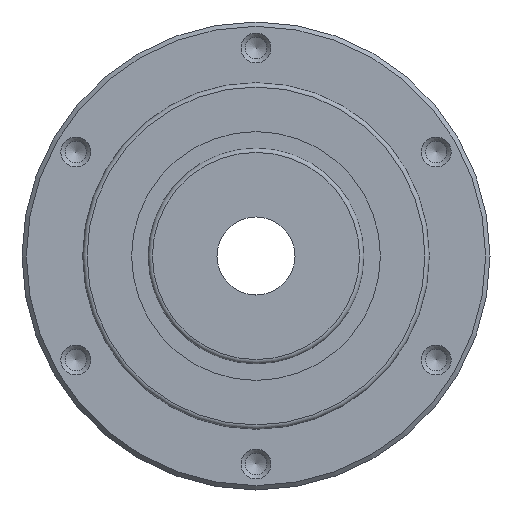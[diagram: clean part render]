
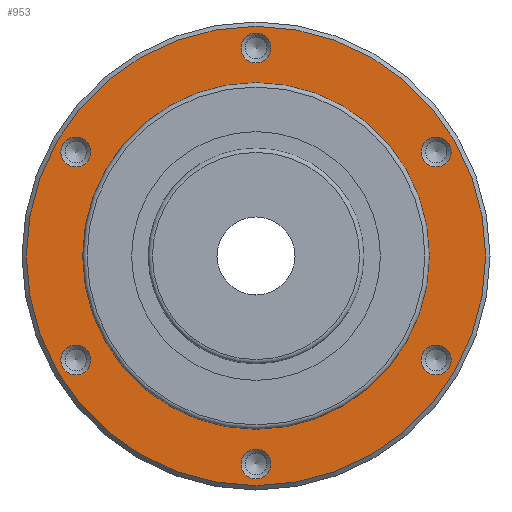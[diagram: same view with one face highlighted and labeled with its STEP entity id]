
A CAD part, left-side view. The second image highlights one B-rep face of the part: STEP entity #953.
In plain terms, the highlighted planar face has unit normal (-1, 0, 0).
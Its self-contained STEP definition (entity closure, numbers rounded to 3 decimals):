
#56=PLANE('',#1032);
#84=ORIENTED_EDGE('',*,*,#187,.T.);
#85=ORIENTED_EDGE('',*,*,#188,.T.);
#86=ORIENTED_EDGE('',*,*,#189,.T.);
#87=ORIENTED_EDGE('',*,*,#190,.T.);
#88=ORIENTED_EDGE('',*,*,#191,.T.);
#89=ORIENTED_EDGE('',*,*,#192,.T.);
#90=ORIENTED_EDGE('',*,*,#193,.T.);
#91=ORIENTED_EDGE('',*,*,#186,.F.);
#186=EDGE_CURVE('',#239,#239,#298,.T.);
#187=EDGE_CURVE('',#240,#240,#299,.T.);
#188=EDGE_CURVE('',#241,#241,#300,.T.);
#189=EDGE_CURVE('',#242,#242,#301,.T.);
#190=EDGE_CURVE('',#243,#243,#302,.T.);
#191=EDGE_CURVE('',#244,#244,#303,.T.);
#192=EDGE_CURVE('',#245,#245,#304,.T.);
#193=EDGE_CURVE('',#246,#246,#305,.T.);
#239=VERTEX_POINT('',#1373);
#240=VERTEX_POINT('',#1376);
#241=VERTEX_POINT('',#1378);
#242=VERTEX_POINT('',#1380);
#243=VERTEX_POINT('',#1382);
#244=VERTEX_POINT('',#1384);
#245=VERTEX_POINT('',#1386);
#246=VERTEX_POINT('',#1388);
#298=CIRCLE('',#1031,40.);
#299=CIRCLE('',#1033,3.459);
#300=CIRCLE('',#1034,3.459);
#301=CIRCLE('',#1035,3.459);
#302=CIRCLE('',#1036,3.459);
#303=CIRCLE('',#1037,3.459);
#304=CIRCLE('',#1038,3.459);
#305=CIRCLE('',#1039,53.);
#355=EDGE_LOOP('',(#84));
#356=EDGE_LOOP('',(#85));
#357=EDGE_LOOP('',(#86));
#358=EDGE_LOOP('',(#87));
#359=EDGE_LOOP('',(#88));
#360=EDGE_LOOP('',(#89));
#361=EDGE_LOOP('',(#90));
#362=EDGE_LOOP('',(#91));
#461=FACE_BOUND('',#355,.T.);
#462=FACE_BOUND('',#356,.T.);
#463=FACE_BOUND('',#357,.T.);
#464=FACE_BOUND('',#358,.T.);
#465=FACE_BOUND('',#359,.T.);
#466=FACE_BOUND('',#360,.T.);
#467=FACE_BOUND('',#361,.T.);
#468=FACE_BOUND('',#362,.T.);
#953=ADVANCED_FACE('',(#461,#462,#463,#464,#465,#466,#467,#468),#56,.T.);
#1031=AXIS2_PLACEMENT_3D('',#1372,#1171,#1172);
#1032=AXIS2_PLACEMENT_3D('',#1374,#1173,#1174);
#1033=AXIS2_PLACEMENT_3D('',#1375,#1175,#1176);
#1034=AXIS2_PLACEMENT_3D('',#1377,#1177,#1178);
#1035=AXIS2_PLACEMENT_3D('',#1379,#1179,#1180);
#1036=AXIS2_PLACEMENT_3D('',#1381,#1181,#1182);
#1037=AXIS2_PLACEMENT_3D('',#1383,#1183,#1184);
#1038=AXIS2_PLACEMENT_3D('',#1385,#1185,#1186);
#1039=AXIS2_PLACEMENT_3D('',#1387,#1187,#1188);
#1171=DIRECTION('',(-1.,0.,0.));
#1172=DIRECTION('',(0.,0.,1.));
#1173=DIRECTION('',(-1.,0.,0.));
#1174=DIRECTION('',(0.,0.,1.));
#1175=DIRECTION('',(1.,0.,0.));
#1176=DIRECTION('',(0.,-0.5,0.866));
#1177=DIRECTION('',(1.,0.,0.));
#1178=DIRECTION('',(0.,0.5,0.866));
#1179=DIRECTION('',(1.,0.,0.));
#1180=DIRECTION('',(0.,1.,0.));
#1181=DIRECTION('',(1.,0.,0.));
#1182=DIRECTION('',(0.,0.5,-0.866));
#1183=DIRECTION('',(1.,0.,0.));
#1184=DIRECTION('',(0.,-0.5,-0.866));
#1185=DIRECTION('',(1.,0.,0.));
#1186=DIRECTION('',(0.,-1.,0.));
#1187=DIRECTION('',(-1.,0.,0.));
#1188=DIRECTION('',(0.,0.,1.));
#1372=CARTESIAN_POINT('',(12.2,0.,0.));
#1373=CARTESIAN_POINT('',(12.2,0.,40.));
#1374=CARTESIAN_POINT('',(12.2,0.,40.));
#1375=CARTESIAN_POINT('',(12.2,41.569,24.));
#1376=CARTESIAN_POINT('',(12.2,39.84,26.995));
#1377=CARTESIAN_POINT('',(12.2,41.569,-24.));
#1378=CARTESIAN_POINT('',(12.2,43.298,-21.005));
#1379=CARTESIAN_POINT('',(12.2,0.,-48.));
#1380=CARTESIAN_POINT('',(12.2,3.459,-48.));
#1381=CARTESIAN_POINT('',(12.2,-41.569,-24.));
#1382=CARTESIAN_POINT('',(12.2,-39.84,-26.995));
#1383=CARTESIAN_POINT('',(12.2,-41.569,24.));
#1384=CARTESIAN_POINT('',(12.2,-43.298,21.005));
#1385=CARTESIAN_POINT('',(12.2,0.,48.));
#1386=CARTESIAN_POINT('',(12.2,-3.459,48.));
#1387=CARTESIAN_POINT('',(12.2,0.,0.));
#1388=CARTESIAN_POINT('',(12.2,0.,53.));
